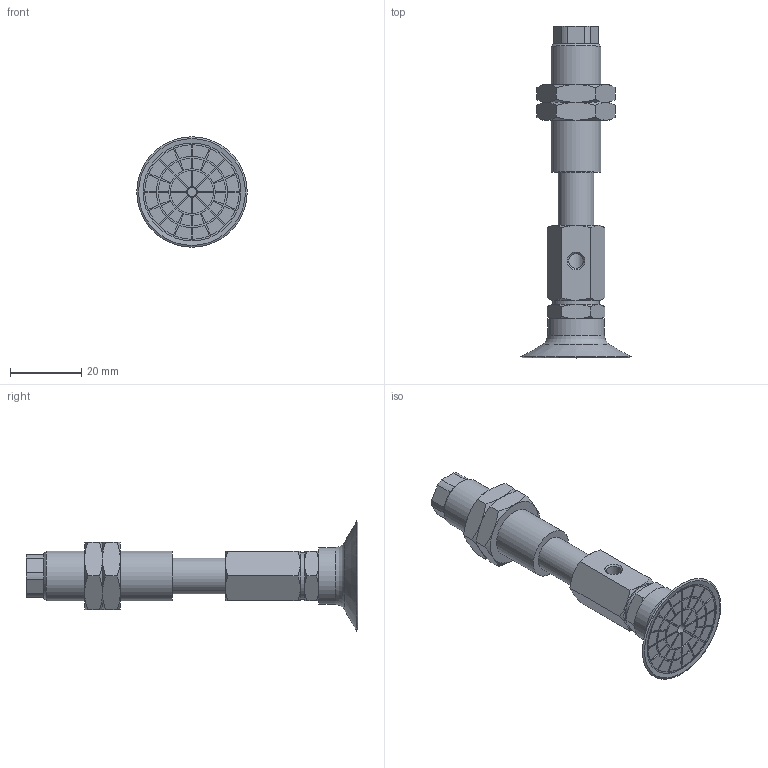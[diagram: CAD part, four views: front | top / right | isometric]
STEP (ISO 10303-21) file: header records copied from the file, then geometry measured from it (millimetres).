
FILE_DESCRIPTION(('STEP AP203'),'1');
FILE_NAME('.stp','2025-02-28T06:42:57',(' '),(' '),'Spatial InterOp 3D',' ',' ');
FILE_SCHEMA(('CONFIG_CONTROL_DESIGN'));
Length unit declared in the file: millimetre
Products named in the file (7): BNABPAYS-30B-15-※; NAPAYS-30B-15--M; NAPAYS-30B-15--F; Nut-25-S; CONNECTOR-30B-15-PA; TN-PA-30B-M6; BPAG-30B-※_3D
Assembly tree (7 placements, depth 2):
  BNABPAYS-30B-15-※
    NAPAYS-30B-15--M
    NAPAYS-30B-15--F
    Nut-25-S  x2
    CONNECTOR-30B-15-PA
    TN-PA-30B-M6
    BPAG-30B-※_3D
Bounding box: 31.04 x 93.2 x 31.04 mm (x, y, z)
Volume: 15977.6 mm3; surface area: 12081.6 mm2
Topology: 7 solids, 7 shells, 364 faces, 843 edges, 538 vertices
Faces by surface type: plane 195, cylinder 98, cone 65, torus 6
Full cylindrical faces by diameter (mm): 2.5 x1, 3 x2, 4.134 x2, 4.917 x1, 5 x1, 6 x3, 10 x4, 12.917 x2, 13 x1, 14 x1, 16 x1, 27.5 x1
Entity records: 10122 total; most frequent: CARTESIAN_POINT 2044, DIRECTION 1642, ORIENTED_EDGE 1500, EDGE_CURVE 750, AXIS2_PLACEMENT_3D 618, VERTEX_POINT 504, EDGE_LOOP 436, LINE 406
